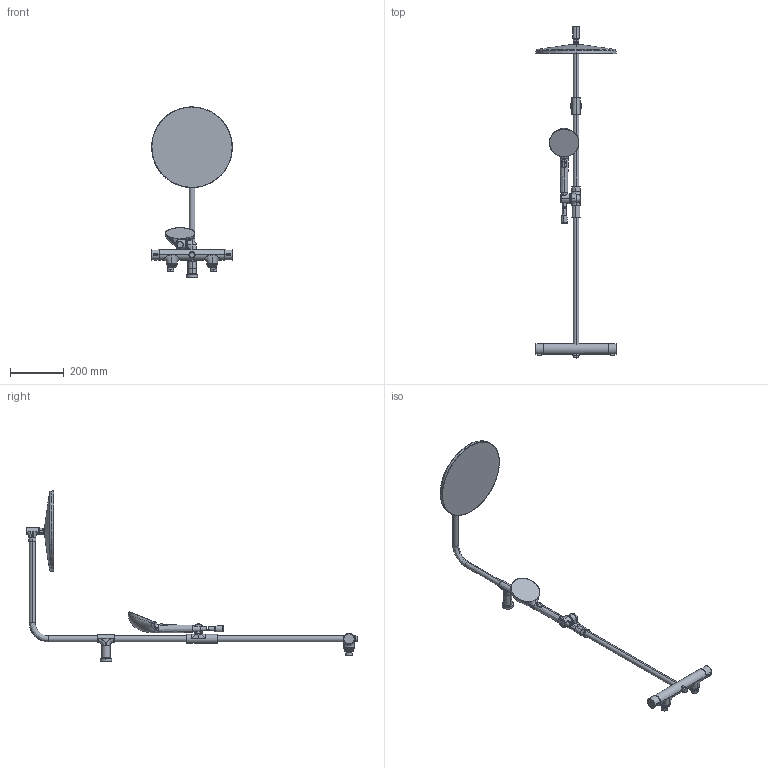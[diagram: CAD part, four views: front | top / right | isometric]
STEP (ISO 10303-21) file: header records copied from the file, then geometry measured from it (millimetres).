
FILE_DESCRIPTION (( 'STEP AP203' ), '1' );
FILE_NAME ('4756(2024).STEP', '2024-04-23T06:37:48', ( '' ), ( '' ), 'SwSTEP 2.0', 'SolidWorks 2016', '' );
FILE_SCHEMA (( 'CONFIG_CONTROL_DESIGN' ));
Products named in the file (1): 4756(2024)
Bounding box: 300 x 1233.59 x 633 mm (x, y, z)
Volume: 3394790.7 mm3; surface area: 428988.4 mm2
Topology: 24 solids, 24 shells, 578 faces, 1403 edges, 878 vertices
Faces by surface type: bspline 274, cylinder 106, plane 104, cone 55, sphere 22, torus 17
Entity records: 47710 total; most frequent: CARTESIAN_POINT 35934, ORIENTED_EDGE 2778, DIRECTION 2020, EDGE_CURVE 1389, AXIS2_PLACEMENT_3D 894, VERTEX_POINT 878, EDGE_LOOP 597, CIRCLE 589
